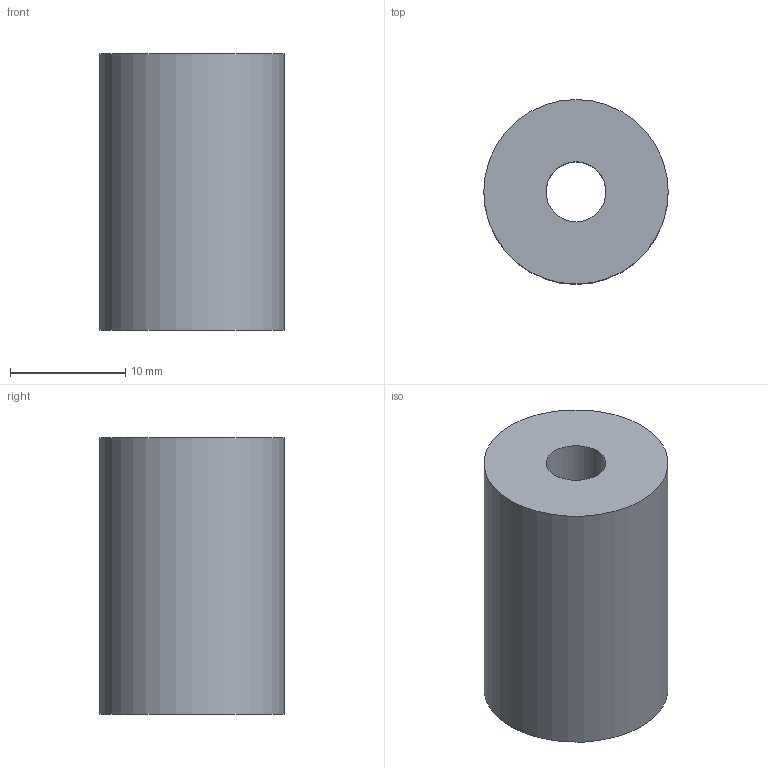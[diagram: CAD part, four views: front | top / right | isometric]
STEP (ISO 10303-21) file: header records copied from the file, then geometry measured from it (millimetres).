
FILE_DESCRIPTION(('Open CASCADE Model'),'2;1');
FILE_NAME('Open CASCADE Shape Model','2026-09-16T16:54:27',('Author'),( 'Open CASCADE'),'Open CASCADE STEP processor 7.8','Open CASCADE 7.8' ,'Unknown');
FILE_SCHEMA(('AUTOMOTIVE_DESIGN { 1 0 10303 214 1 1 1 1 }'));
Length unit declared in the file: millimetre
Products named in the file (1): Open CASCADE STEP translator 7.8 11
Bounding box: 16 x 16 x 24 mm (x, y, z)
Volume: 4315.8 mm3; surface area: 1958.1 mm2
Topology: 1 solids, 1 shells, 4 faces, 6 edges, 4 vertices
Faces by surface type: cylinder 2, plane 2
Full cylindrical faces by diameter (mm): 5.2 x1, 16 x1
Entity records: 186 total; most frequent: DIRECTION 32, CARTESIAN_POINT 27, ORIENTED_EDGE 12, PCURVE 12, DEFINITIONAL_REPRESENTATION 12, LINE 10, VECTOR 10, AXIS2_PLACEMENT_3D 9
